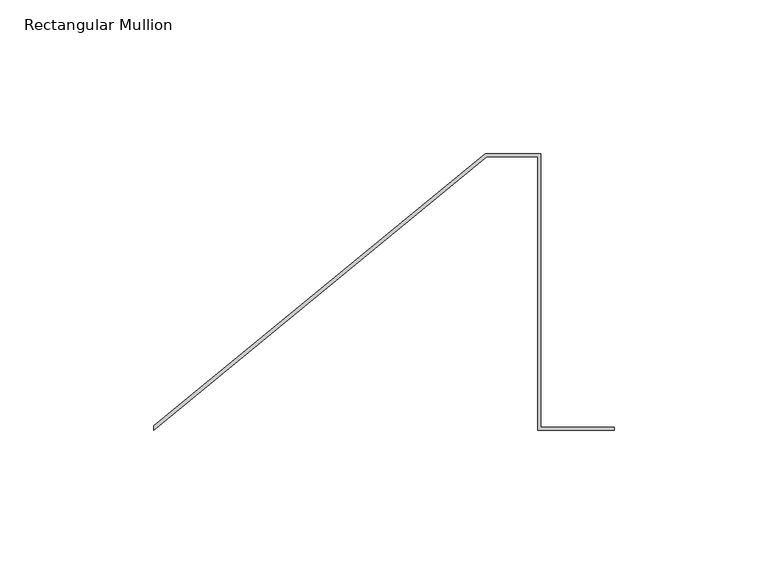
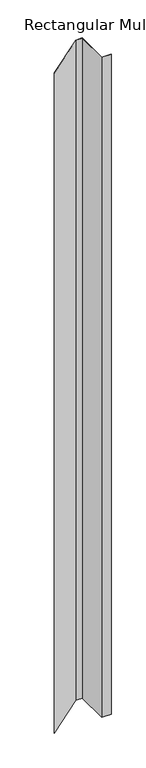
"""IFC4 building model written with IfcOpenShell, lengths in millimetres: member geometry, Rectangular Mullion : CD_NINELINE_Sawtooth Start Intermediate."""

from ifc_helpers import new_model, si_unit, frame, origin, place, context, project, spatial, polyline, outline, extrude, source, transform, mapped, element, save


def rectangular_mullion_c7de9142(model_context):
    return source(origin(), model_context, "Body", "SweptSolid", [
        extrude(outline(polyline([(58.5, 0.0), (58.5, 89.0), (41.9195723, 89.0), (-66.5, 0.0), (-66.5, 1.337022), (41.5090129, 90.0), (59.5, 90.0), (59.5, 1.0), (83.5, 1.0), (83.5, 0.0), (58.5, 0.0)])), frame((0.0, 0.0, -1852.0), z_axis=(0.0, 0.0, 1.0), x_axis=(1.0, 0.0, 0.0)), (0.0, 0.0, 1.0), 1852.0),
    ])


if __name__ == "__main__":
    model = new_model("IFC4")
    model_context = context("Model", 3, world=origin())
    ifc_project = project(units=[si_unit("LENGTHUNIT", "METRE", prefix="MILLI")], contexts=[model_context])
    site = spatial("IfcSite", under=ifc_project)
    building = spatial("IfcBuilding", under=site)
    placement = place(None, origin())
    rectangular_mullion_shape = rectangular_mullion_c7de9142(model_context)
    element("IfcMember", 1, ObjectType="Rectangular Mullion : CD_NINELINE_Sawtooth Start Intermediate", at=placement, inside=building, context=model_context, shape_type="MappedRepresentation", body=[
        mapped(rectangular_mullion_shape, transform((0.0, 0.0, 0.0), x_axis=(1.0, 0.0, 0.0), y_axis=(0.0, 1.0, 0.0), z_axis=(0.0, 0.0, 1.0))),
    ])
    save(model, "model.ifc")
